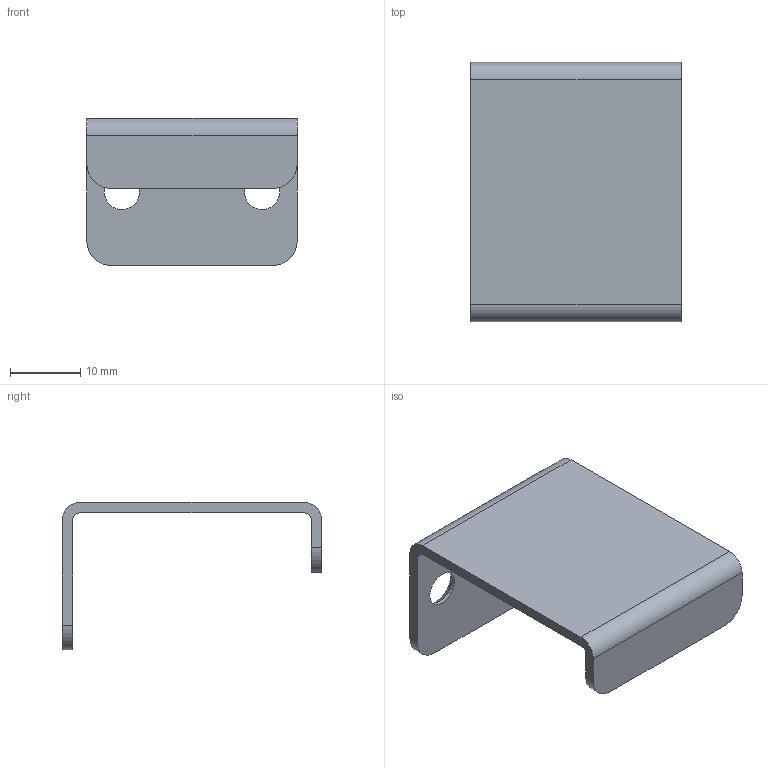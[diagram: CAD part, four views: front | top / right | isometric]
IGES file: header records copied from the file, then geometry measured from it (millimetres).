
Start section: Data from Parasolid IGES Translator 15.0.47, Copyright(c) 2006 Siemens P LM Software. All Rights Reserved.
Global section: file name: 9995574.igs; native system:  By UGS Corp.; preprocessor: XPlus GENERIC/IGES 3.0; author: Noname; organization: Noname; date: 20140122.181616; units: millimetre
Bounding box: 30 x 37 x 21 mm (x, y, z)
Surface area: 4015.6 mm2 (no closed solid volume)
Topology: 0 solids, 0 shells, 22 faces, 120 edges, 118 vertices
Faces by surface type: revolution 12, extrusion 10
